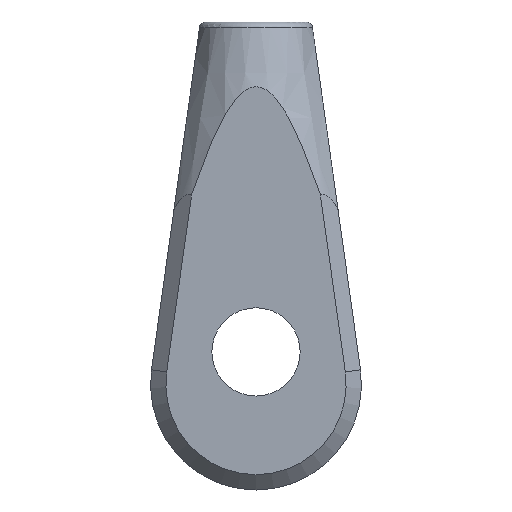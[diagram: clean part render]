
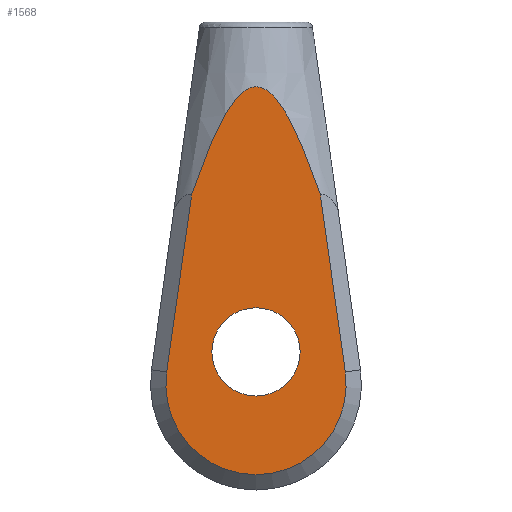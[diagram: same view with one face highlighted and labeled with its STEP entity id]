
A CAD part, front view. The second image highlights one B-rep face of the part: STEP entity #1568.
In plain terms, the highlighted planar face has unit normal (0, -1, 0).
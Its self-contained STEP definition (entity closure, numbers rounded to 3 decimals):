
#12 = LINE ( 'NONE', #1699, #1163 ) ;
#53 = CARTESIAN_POINT ( 'NONE',  ( 14.5, -18.4, -94.5 ) ) ;
#153 = FACE_BOUND ( 'NONE', #910, .T. ) ;
#199 = CARTESIAN_POINT ( 'NONE',  ( 37.772, -18.4, -91.232 ) ) ;
#246 = DIRECTION ( 'NONE',  ( 0., 1., 0. ) ) ;
#253 = CARTESIAN_POINT ( 'NONE',  ( 7.13, -18.4, -22.985 ) ) ;
#301 = EDGE_CURVE ( 'NONE', #861, #963, #1325, .T. ) ;
#345 = CIRCLE ( 'NONE', #1266, 23.5 ) ;
#356 = CARTESIAN_POINT ( 'NONE',  ( 14.5, -18.4, -97.5 ) ) ;
#360 = AXIS2_PLACEMENT_3D ( 'NONE', #1502, #662, #1656 ) ;
#364 = ORIENTED_EDGE ( 'NONE', *, *, #301, .T. ) ;
#388 = CARTESIAN_POINT ( 'NONE',  ( 9.678, -18.4, -19.562 ) ) ;
#436 = EDGE_CURVE ( 'NONE', #963, #528, #345, .T. ) ;
#469 = EDGE_LOOP ( 'NONE', ( #1042, #1811, #487, #364 ) ) ;
#485 = VECTOR ( 'NONE', #1664, 1000. ) ;
#487 = ORIENTED_EDGE ( 'NONE', *, *, #1583, .F. ) ;
#503 = CIRCLE ( 'NONE', #360, 11.5 ) ;
#504 = CARTESIAN_POINT ( 'NONE',  ( -8.772, -18.4, -91.232 ) ) ;
#515 = CARTESIAN_POINT ( 'NONE',  ( 8.339, -18.4, -21.225 ) ) ;
#528 = VERTEX_POINT ( 'NONE', #199 ) ;
#531 = FACE_OUTER_BOUND ( 'NONE', #469, .T. ) ;
#537 = CARTESIAN_POINT ( 'NONE',  ( 3.26, -18.4, -30.559 ) ) ;
#557 = DIRECTION ( 'NONE',  ( 0., 0., 1. ) ) ;
#662 = DIRECTION ( 'NONE',  ( 0., 1., 0. ) ) ;
#664 = AXIS2_PLACEMENT_3D ( 'NONE', #704, #669, #557 ) ;
#669 = DIRECTION ( 'NONE',  ( 0., 1., 0. ) ) ;
#688 = CARTESIAN_POINT ( 'NONE',  ( 6.415, -18.4, -24.208 ) ) ;
#704 = CARTESIAN_POINT ( 'NONE',  ( 14.5, -18.4, -86. ) ) ;
#728 = CARTESIAN_POINT ( 'NONE',  ( 8.766, -18.4, -20.651 ) ) ;
#775 = CARTESIAN_POINT ( 'NONE',  ( 12.147, -18.4, -17.53 ) ) ;
#779 = CARTESIAN_POINT ( 'NONE',  ( 12.794, -18.4, -17.222 ) ) ;
#794 = CARTESIAN_POINT ( 'NONE',  ( 13.135, -18.4, -17.098 ) ) ;
#825 = CARTESIAN_POINT ( 'NONE',  ( 14.5, -18.4, -74.5 ) ) ;
#832 = CARTESIAN_POINT ( 'NONE',  ( -8.772, -18.4, -91.232 ) ) ;
#861 = VERTEX_POINT ( 'NONE', #1810 ) ;
#905 = CARTESIAN_POINT ( 'NONE',  ( 13.825, -18.4, -16.932 ) ) ;
#910 = EDGE_LOOP ( 'NONE', ( #1222, #984 ) ) ;
#911 = CARTESIAN_POINT ( 'NONE',  ( 14.178, -18.4, -16.89 ) ) ;
#918 = VERTEX_POINT ( 'NONE', #825 ) ;
#927 = CARTESIAN_POINT ( 'NONE',  ( 14.902, -18.4, -16.896 ) ) ;
#963 = VERTEX_POINT ( 'NONE', #832 ) ;
#980 = DIRECTION ( 'NONE',  ( -0.139, 0., 0.99 ) ) ;
#984 = ORIENTED_EDGE ( 'NONE', *, *, #1252, .T. ) ;
#1016 = EDGE_CURVE ( 'NONE', #528, #1836, #12, .T. ) ;
#1042 = ORIENTED_EDGE ( 'NONE', *, *, #436, .T. ) ;
#1056 = B_SPLINE_CURVE_WITH_KNOTS ( 'NONE', 3,
 ( #1691, #1798, #1808, #1712, #1846, #1253, #537, #1346, #1668, #688, #253, #515, #728, #388, #1206, #1725, #1674, #1527, #775, #779, #794, #905, #911, #927, #1068, #1181, #1189, #1191, #1204, #1312, #1318, #1324, #1337, #1342, #1458, #1464, #1474, #1477, #1490, #1602, #1611, #1617, #1624, #1637, #1642, #1767 ),
 .UNSPECIFIED., .F., .F.,
 ( 4, 2, 2, 2, 2, 2, 2, 2, 2, 2, 2, 2, 2, 2, 2, 2, 2, 2, 2, 2, 2, 2, 4 ),
 ( 0.311, 0.319, 0.323, 0.327, 0.332, 0.336, 0.338, 0.34, 0.341, 0.342, 0.343, 0.344, 0.346, 0.347, 0.348, 0.349, 0.351, 0.353, 0.357, 0.361, 0.366, 0.37, 0.378 ),
 .UNSPECIFIED. ) ;
#1067 = DIRECTION ( 'NONE',  ( 0., -1., 0. ) ) ;
#1068 = CARTESIAN_POINT ( 'NONE',  ( 15.255, -18.4, -16.946 ) ) ;
#1163 = VECTOR ( 'NONE', #980, 1000. ) ;
#1181 = CARTESIAN_POINT ( 'NONE',  ( 15.946, -18.4, -17.125 ) ) ;
#1189 = CARTESIAN_POINT ( 'NONE',  ( 16.286, -18.4, -17.255 ) ) ;
#1191 = CARTESIAN_POINT ( 'NONE',  ( 16.926, -18.4, -17.57 ) ) ;
#1204 = CARTESIAN_POINT ( 'NONE',  ( 17.23, -18.4, -17.755 ) ) ;
#1206 = CARTESIAN_POINT ( 'NONE',  ( 10.163, -18.4, -19.045 ) ) ;
#1222 = ORIENTED_EDGE ( 'NONE', *, *, #1764, .T. ) ;
#1243 = VERTEX_POINT ( 'NONE', #356 ) ;
#1252 = EDGE_CURVE ( 'NONE', #918, #1243, #1605, .T. ) ;
#1253 = CARTESIAN_POINT ( 'NONE',  ( 2.696, -18.4, -31.863 ) ) ;
#1261 = AXIS2_PLACEMENT_3D ( 'NONE', #1544, #246, #1837 ) ;
#1266 = AXIS2_PLACEMENT_3D ( 'NONE', #53, #1067, #1783 ) ;
#1312 = CARTESIAN_POINT ( 'NONE',  ( 17.815, -18.4, -18.166 ) ) ;
#1318 = CARTESIAN_POINT ( 'NONE',  ( 18.096, -18.4, -18.392 ) ) ;
#1324 = CARTESIAN_POINT ( 'NONE',  ( 18.895, -18.4, -19.103 ) ) ;
#1325 = LINE ( 'NONE', #504, #485 ) ;
#1337 = CARTESIAN_POINT ( 'NONE',  ( 19.377, -18.4, -19.623 ) ) ;
#1342 = CARTESIAN_POINT ( 'NONE',  ( 20.285, -18.4, -20.717 ) ) ;
#1346 = CARTESIAN_POINT ( 'NONE',  ( 4.45, -18.4, -27.979 ) ) ;
#1373 = CARTESIAN_POINT ( 'NONE',  ( 31.293, -18.4, -45.096 ) ) ;
#1458 = CARTESIAN_POINT ( 'NONE',  ( 20.71, -18.4, -21.294 ) ) ;
#1464 = CARTESIAN_POINT ( 'NONE',  ( 21.913, -18.4, -23.055 ) ) ;
#1474 = CARTESIAN_POINT ( 'NONE',  ( 22.623, -18.4, -24.275 ) ) ;
#1477 = CARTESIAN_POINT ( 'NONE',  ( 23.954, -18.4, -26.76 ) ) ;
#1490 = CARTESIAN_POINT ( 'NONE',  ( 24.573, -18.4, -28.026 ) ) ;
#1501 = PLANE ( 'NONE',  #1261 ) ;
#1502 = CARTESIAN_POINT ( 'NONE',  ( 14.5, -18.4, -86. ) ) ;
#1527 = CARTESIAN_POINT ( 'NONE',  ( 11.84, -18.4, -17.712 ) ) ;
#1544 = CARTESIAN_POINT ( 'NONE',  ( 14.5, -18.4, -94.5 ) ) ;
#1568 = ADVANCED_FACE ( 'NONE', ( #153, #531 ), #1501, .F. ) ;
#1583 = EDGE_CURVE ( 'NONE', #861, #1836, #1056, .T. ) ;
#1602 = CARTESIAN_POINT ( 'NONE',  ( 25.752, -18.4, -30.587 ) ) ;
#1605 = CIRCLE ( 'NONE', #664, 11.5 ) ;
#1611 = CARTESIAN_POINT ( 'NONE',  ( 26.312, -18.4, -31.882 ) ) ;
#1617 = CARTESIAN_POINT ( 'NONE',  ( 27.393, -18.4, -34.492 ) ) ;
#1624 = CARTESIAN_POINT ( 'NONE',  ( 27.914, -18.4, -35.808 ) ) ;
#1637 = CARTESIAN_POINT ( 'NONE',  ( 29.43, -18.4, -39.768 ) ) ;
#1642 = CARTESIAN_POINT ( 'NONE',  ( 30.379, -18.4, -42.427 ) ) ;
#1656 = DIRECTION ( 'NONE',  ( 0., 0., 1. ) ) ;
#1664 = DIRECTION ( 'NONE',  ( -0.139, 0., -0.99 ) ) ;
#1668 = CARTESIAN_POINT ( 'NONE',  ( 5.073, -18.4, -26.705 ) ) ;
#1674 = CARTESIAN_POINT ( 'NONE',  ( 11.249, -18.4, -18.117 ) ) ;
#1691 = CARTESIAN_POINT ( 'NONE',  ( -2.293, -18.4, -45.096 ) ) ;
#1699 = CARTESIAN_POINT ( 'NONE',  ( 37.772, -18.4, -91.232 ) ) ;
#1712 = CARTESIAN_POINT ( 'NONE',  ( 1.09, -18.4, -35.797 ) ) ;
#1725 = CARTESIAN_POINT ( 'NONE',  ( 10.966, -18.4, -18.341 ) ) ;
#1764 = EDGE_CURVE ( 'NONE', #1243, #918, #503, .T. ) ;
#1767 = CARTESIAN_POINT ( 'NONE',  ( 31.293, -18.4, -45.096 ) ) ;
#1783 = DIRECTION ( 'NONE',  ( 0., 0., 1. ) ) ;
#1798 = CARTESIAN_POINT ( 'NONE',  ( -1.378, -18.4, -42.423 ) ) ;
#1808 = CARTESIAN_POINT ( 'NONE',  ( -0.427, -18.4, -39.761 ) ) ;
#1810 = CARTESIAN_POINT ( 'NONE',  ( -2.293, -18.4, -45.096 ) ) ;
#1811 = ORIENTED_EDGE ( 'NONE', *, *, #1016, .T. ) ;
#1836 = VERTEX_POINT ( 'NONE', #1373 ) ;
#1837 = DIRECTION ( 'NONE',  ( 0., 0., 1. ) ) ;
#1846 = CARTESIAN_POINT ( 'NONE',  ( 1.611, -18.4, -34.481 ) ) ;
